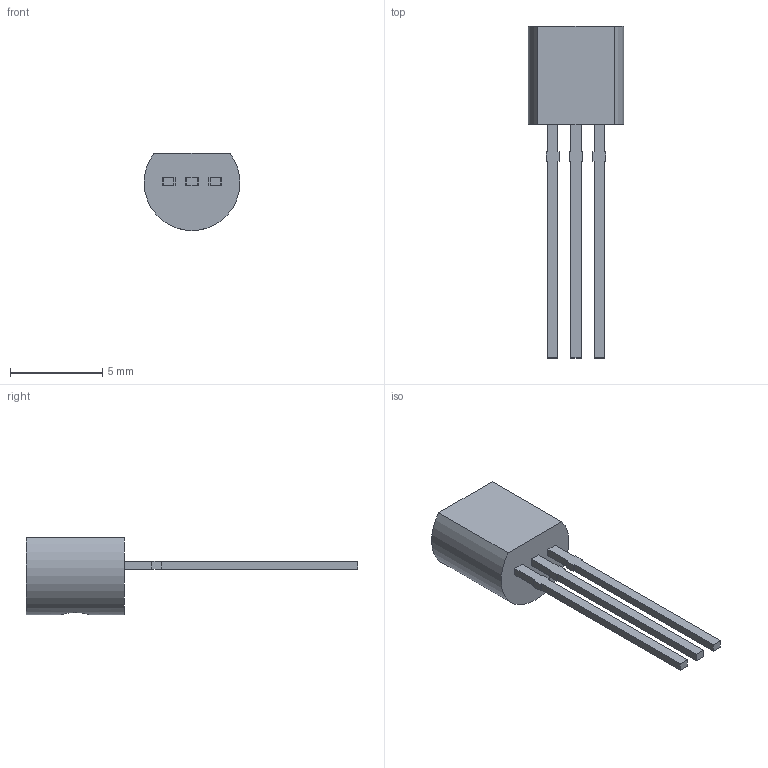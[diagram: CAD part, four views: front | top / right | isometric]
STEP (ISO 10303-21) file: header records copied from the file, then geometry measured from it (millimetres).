
FILE_DESCRIPTION (( 'STEP AP214' ), '1' );
FILE_NAME ('TL431ACLPR.STEP', '2022-02-16T05:14:43', ( '' ), ( '' ), 'SwSTEP 2.0', 'SolidWorks 2018', '' );
FILE_SCHEMA (( 'AUTOMOTIVE_DESIGN' ));
Length unit declared in the file: millimetre
Products named in the file (2): TL431ACLPR
Bounding box: 5.21 x 18.04 x 4.19 mm (x, y, z)
Volume: 106.2 mm3; surface area: 198.8 mm2
Topology: 1 solids, 1 shells, 47 faces, 126 edges, 84 vertices
Faces by surface type: plane 43, cylinder 4
Entity records: 2034 total; most frequent: CARTESIAN_POINT 289, ORIENTED_EDGE 252, DIRECTION 226, EDGE_CURVE 126, VECTOR 116, LINE 116, VERTEX_POINT 84, AXIS2_PLACEMENT_3D 55
